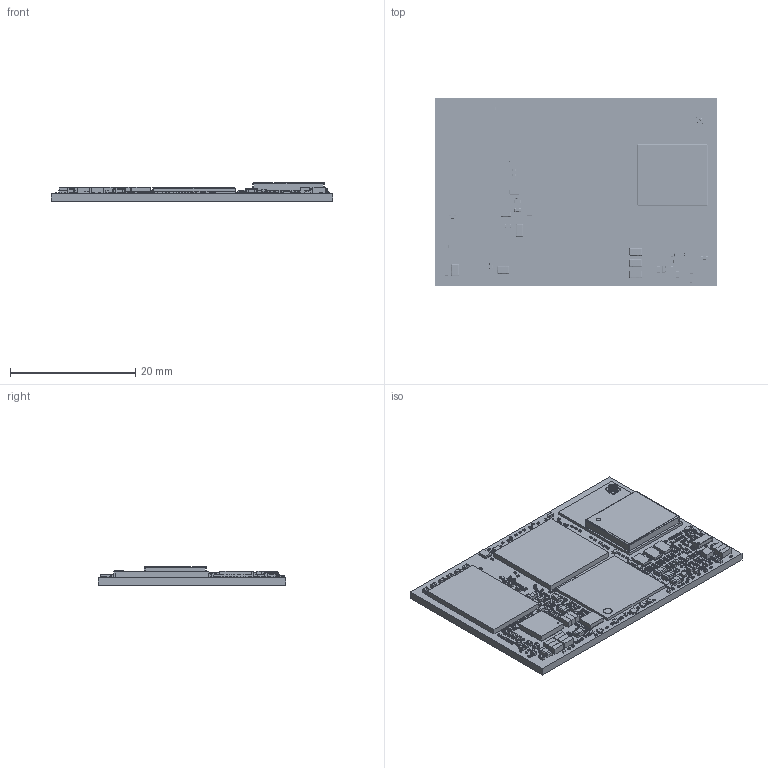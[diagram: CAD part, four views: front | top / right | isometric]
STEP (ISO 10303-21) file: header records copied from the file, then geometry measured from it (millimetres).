
FILE_DESCRIPTION(('Open CASCADE Model'),'2;1');
FILE_NAME('Open CASCADE Shape Model','2025-12-04T14:54:55',('Author'),( 'Open CASCADE'),'Open CASCADE STEP processor 7.5','Open CASCADE 7.5' ,'Unknown');
FILE_SCHEMA(('AUTOMOTIVE_DESIGN { 1 0 10303 214 1 1 1 1 }'));
Length unit declared in the file: millimetre
Products named in the file (638): PCB; Board; Open CASCADE STEP translator 7.5 1.1.1; R167; 01005_PAN; D1; 5935322896; R166; R125; Q12; CST3C_z90; Component1; Component2; Component3; Component4; R165; R164; R163; R162; R161; R160; R152; R151; R148; R146; C191; CAP0201 (0603); C190; R143; R138; R132; R131; R130; R129; R127; R126; R118; U14; SN74LVC1G08DPWR; R117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
Assembly tree (1031 placements, depth 4):
  PCB
    Board
      Open CASCADE STEP translator 7.5 1.1.1
    R167
      01005_PAN
    D1
      5935322896
    R166
      01005_PAN
    R125
      01005_PAN
    Q12
      CST3C_z90
        Component1
        Component2
        Component3
        Component4
    R165
      01005_PAN
    R164
      01005_PAN
    R163
      01005_PAN
    R162
      01005_PAN
    R161
      01005_PAN
    R160
      01005_PAN
    R152
      01005_PAN
    R151
      01005_PAN
    R148
      01005_PAN
    R146
      01005_PAN
    C191
      CAP0201 (0603)
    C190
      CAP0201 (0603)
    R143
      01005_PAN
    R138
      01005_PAN
    R132
      01005_PAN
    R131
      01005_PAN
    R130
      01005_PAN
    R129
      01005_PAN
    R127
      01005_PAN
    R126
      01005_PAN
    R118
      01005_PAN
    U14
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Bounding box: 45 x 30 x 3.03 mm (x, y, z)
Volume: 2285.6 mm3; surface area: 5691.2 mm2
Topology: 1692 solids, 1902 shells, 16208 faces, 36610 edges, 22460 vertices
Faces by surface type: plane 12829, cylinder 2054, sphere 765, bspline 552, cone 6, torus 2
Full cylindrical faces by diameter (mm): 0.032 x1, 0.099 x1, 0.255 x1, 0.7 x1, 1.438 x1
Entity records: 115391 total; most frequent: CARTESIAN_POINT 22390, DIRECTION 15725, ORIENTED_EDGE 13486, EDGE_CURVE 6959, AXIS2_PLACEMENT_3D 5445, LINE 4835, VECTOR 4835, VERTEX_POINT 4646
